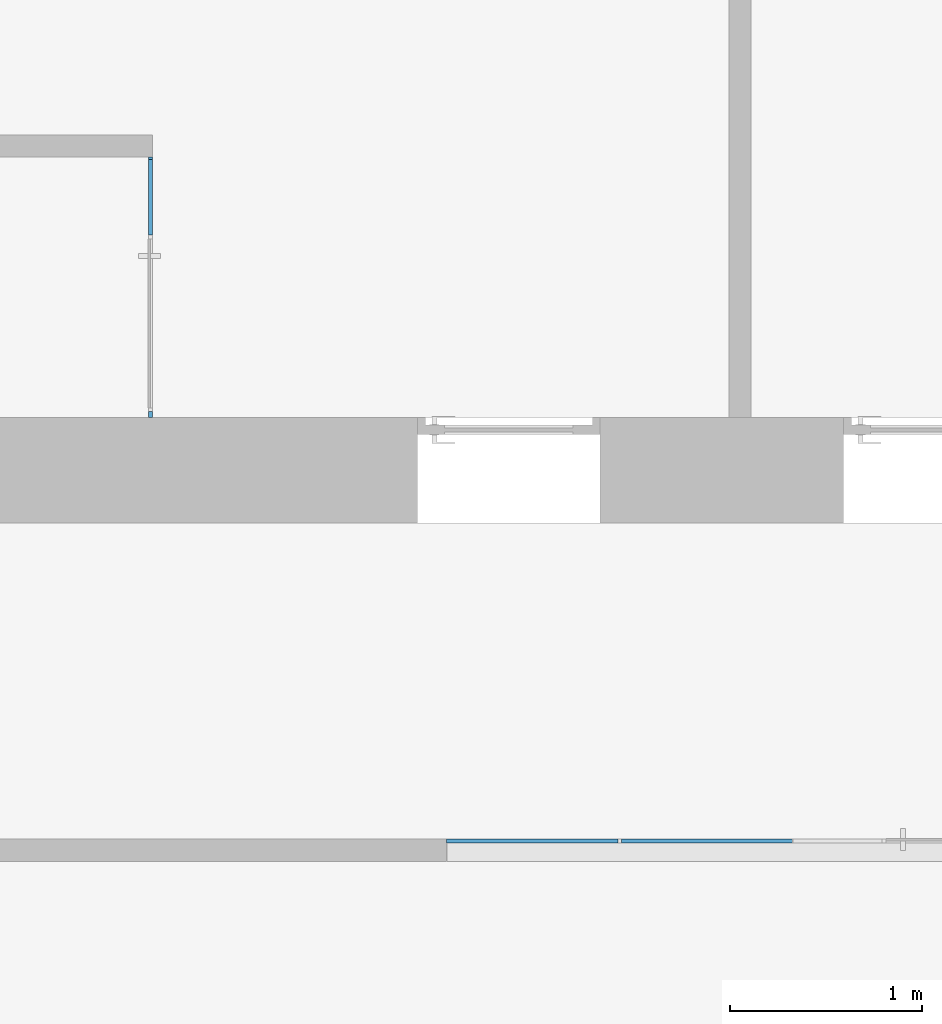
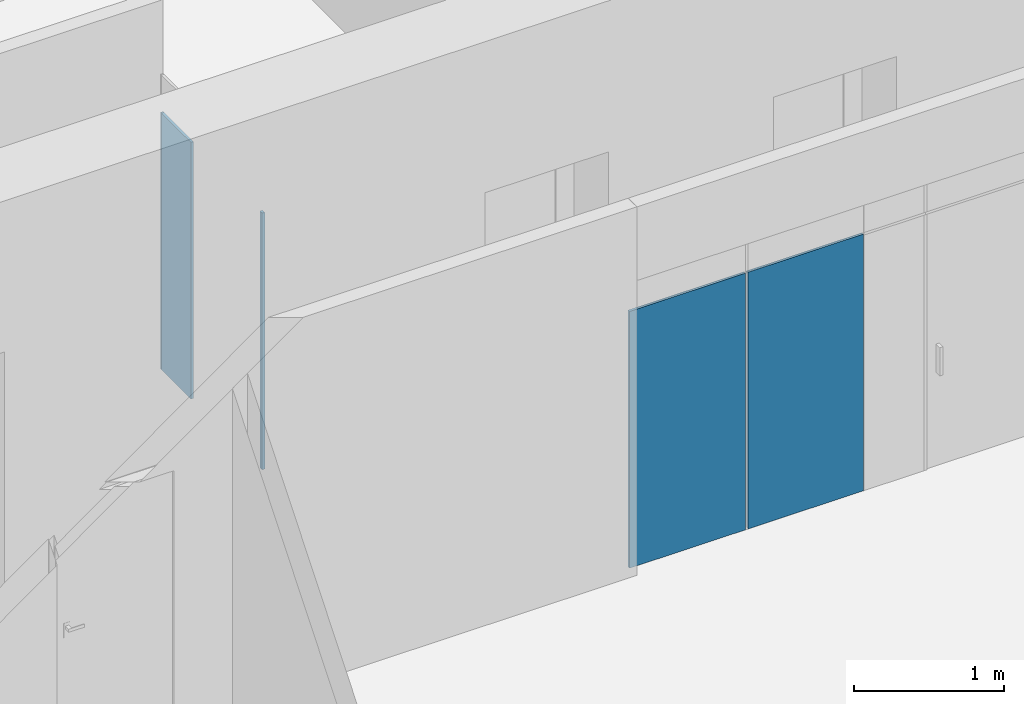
# One storey, part 25 of 73: 5 plates, 2 elements without a shape of their own.
"""IFC2X3 building model written with IfcOpenShell, lengths in millimetres."""

from ifc_helpers import new_model, entity, si_unit, converted_unit, derived_unit, direction, frame, origin, origin_2d_with_axis, place, context, subcontext, project, spatial, rectangle, extrude, source, transform, mapped, material, layer, layer_set, layer_usage, type_object, type_shapes, element, aggregate, save


model = new_model("IFC2X3")

# Units and contexts
model_context = context("Model", 3, precision=0.01, world=origin(), true_north=direction((6.12303176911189e-17, 1.0)))
body_context = subcontext(model_context, "Body", "Model", "MODEL_VIEW")
ifc_project = project(units=[si_unit("LENGTHUNIT", "METRE", prefix="MILLI"), si_unit("AREAUNIT", "SQUARE_METRE"), si_unit("VOLUMEUNIT", "CUBIC_METRE"), converted_unit("PLANEANGLEUNIT", "DEGREE", entity("IfcRatioMeasure", 0.0174532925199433), si_unit("PLANEANGLEUNIT", "RADIAN"), dimensions=[0, 0, 0, 0, 0, 0, 0]), si_unit("MASSUNIT", "GRAM", prefix="KILO"), derived_unit("MASSDENSITYUNIT", [(si_unit("MASSUNIT", "GRAM", prefix="KILO"), 1), (si_unit("LENGTHUNIT", "METRE"), -3)]), si_unit("TIMEUNIT", "SECOND"), si_unit("FREQUENCYUNIT", "HERTZ"), si_unit("THERMODYNAMICTEMPERATUREUNIT", "DEGREE_CELSIUS"), derived_unit("THERMALTRANSMITTANCEUNIT", [(si_unit("MASSUNIT", "GRAM", prefix="KILO"), 1), (si_unit("THERMODYNAMICTEMPERATUREUNIT", "KELVIN"), -1), (si_unit("TIMEUNIT", "SECOND"), -3)]), derived_unit("VOLUMETRICFLOWRATEUNIT", [(si_unit("LENGTHUNIT", "METRE"), 3), (si_unit("TIMEUNIT", "SECOND"), -1)]), si_unit("ELECTRICCURRENTUNIT", "AMPERE"), si_unit("ELECTRICVOLTAGEUNIT", "VOLT"), si_unit("POWERUNIT", "WATT"), si_unit("FORCEUNIT", "NEWTON", prefix="KILO"), si_unit("ILLUMINANCEUNIT", "LUX"), si_unit("LUMINOUSFLUXUNIT", "LUMEN"), si_unit("LUMINOUSINTENSITYUNIT", "CANDELA"), derived_unit("USERDEFINED", [(si_unit("MASSUNIT", "GRAM", prefix="KILO"), -1), (si_unit("LENGTHUNIT", "METRE"), -2), (si_unit("TIMEUNIT", "SECOND"), 3), (si_unit("LUMINOUSFLUXUNIT", "LUMEN"), 1)]), derived_unit("LINEARVELOCITYUNIT", [(si_unit("LENGTHUNIT", "METRE"), 1), (si_unit("TIMEUNIT", "SECOND"), -1)]), si_unit("PRESSUREUNIT", "PASCAL"), derived_unit("USERDEFINED", [(si_unit("LENGTHUNIT", "METRE"), -2), (si_unit("MASSUNIT", "GRAM", prefix="KILO"), 1), (si_unit("TIMEUNIT", "SECOND"), -2)])], contexts=[model_context])

# Site, building, storey
site_placement = place(None, frame((-151.875543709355, 2715.0, 0.0)))
site = spatial("IfcSite", under=ifc_project, at=site_placement, Name="Surface", CompositionType="ELEMENT")
building_placement = place(site_placement, origin())
building = spatial("IfcBuilding", under=site, at=building_placement, CompositionType="ELEMENT")
storey_placement = place(building_placement, frame((0.0, 0.0, 6730.43000000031)))
storey = spatial("IfcBuildingStorey", under=building, at=storey_placement, Name="3 korrus", CompositionType="ELEMENT", Elevation=6730.43000000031)

# Curtain wall, plates
curtain_wall_type_1 = type_object("IfcCurtainWallType", Name="Curtain Wall:Klaassein KLS-17", PredefinedType="NOTDEFINED")
curtain_wall_1_placement = place(storey_placement, frame((0.0, 0.0, -6730.43000000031)))
curtain_wall_1 = element("IfcCurtainWall", 1, at=curtain_wall_1_placement, inside=storey, type_object=curtain_wall_type_1, Name="Curtain Wall:Klaassein KLS-17", ObjectType="Curtain Wall:Klaassein KLS-17")
ifc_material = material(Name="<Unnamed>")
ifc_layer = layer(ifc_material, 20.0)
ifc_layer_set = layer_set([ifc_layer], Name="Curtain Wall:Klaassein KLS-01")
ifc_layer_usage_1 = layer_usage(ifc_layer_set, "AXIS3", "POSITIVE", 0.0)
plate_type_1 = type_object("IfcPlateType", Name="Glazed", PredefinedType="CURTAIN_PANEL", material=ifc_layer_set)
shared_shape_1 = source(origin(), body_context, "Body", "SweptSolid", [
    extrude(rectangle(XDim=20.0, YDim=891.999999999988, at=origin_2d_with_axis()), frame((0.0, 0.0, 0.0), z_axis=(0.0, 0.0, 1.0), x_axis=(0.0, 1.0, 0.0)), (0.0, 0.0, 1.0), 2090.0),
])
type_shapes(plate_type_1, [shared_shape_1])
plate_1_placement = place(curtain_wall_1_placement, frame((12559.5647264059, 4355.04493399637, 6730.43000000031)))
plate_1 = element("IfcPlate", 2, at=plate_1_placement, type_object=plate_type_1, material=ifc_layer_usage_1, Name="System Panel:Glazed", ObjectType="Glazed", context=body_context, shape_type="MappedRepresentation", body=[
    mapped(shared_shape_1, transform((0.0, 0.0, 0.0), scale=1.0)),
])
ifc_layer_usage_2 = layer_usage(ifc_layer_set, "AXIS3", "POSITIVE", 0.0)
plate_type_2 = type_object("IfcPlateType", Name="Glazed", PredefinedType="CURTAIN_PANEL", material=ifc_layer_set)
shared_shape_2 = source(origin(), body_context, "Body", "SweptSolid", [
    extrude(rectangle(XDim=20.0, YDim=888.000000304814, at=origin_2d_with_axis()), frame((0.0, 0.0, 0.0), z_axis=(0.0, 0.0, 1.0), x_axis=(0.0, 1.0, 0.0)), (0.0, 0.0, 1.0), 2090.0),
])
type_shapes(plate_type_2, [shared_shape_2])
plate_2_placement = place(curtain_wall_1_placement, frame((13469.5647265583, 4355.04493399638, 6730.43000000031)))
plate_2 = element("IfcPlate", 3, at=plate_2_placement, type_object=plate_type_2, material=ifc_layer_usage_2, Name="System Panel:Glazed", ObjectType="Glazed", context=body_context, shape_type="MappedRepresentation", body=[
    mapped(shared_shape_2, transform((0.0, 0.0, 0.0), scale=1.0)),
])
aggregate(curtain_wall_1, [plate_1, plate_2])

curtain_wall_type_2 = type_object("IfcCurtainWallType", Name="Curtain Wall:Klaassein KLS-10", PredefinedType="NOTDEFINED")
curtain_wall_2_placement = place(storey_placement, frame((0.0, 0.0, -6730.43000000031)))
curtain_wall_2 = element("IfcCurtainWall", 4, at=curtain_wall_2_placement, inside=storey, type_object=curtain_wall_type_2, Name="Curtain Wall:Klaassein KLS-10", ObjectType="Curtain Wall:Klaassein KLS-10")
ifc_layer_usage_3 = layer_usage(ifc_layer_set, "AXIS3", "POSITIVE", 0.0)
plate_type_3 = type_object("IfcPlateType", Name="Glazed", PredefinedType="CURTAIN_PANEL", material=ifc_layer_set)
shared_shape_3 = source(origin(), body_context, "Body", "SweptSolid", [
    extrude(rectangle(XDim=20.0, YDim=13.0094386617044, at=origin_2d_with_axis()), frame((0.0, 0.0, 0.0), z_axis=(0.0, 0.0, 1.0), x_axis=(0.0, 1.0, 0.0)), (0.0, 0.0, 1.0), 2090.0),
])
type_shapes(plate_type_3, [shared_shape_3])
plate_3_placement = place(curtain_wall_2_placement, frame((10572.8493480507, 7908.55673879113, 6730.43000000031), z_axis=(0.0, 0.0, 1.0), x_axis=(0.0, -1.0, 0.0)))
plate_3 = element("IfcPlate", 5, at=plate_3_placement, type_object=plate_type_3, material=ifc_layer_usage_3, Name="System Panel:Glazed", ObjectType="Glazed", context=body_context, shape_type="MappedRepresentation", body=[
    mapped(shared_shape_3, transform((0.0, 0.0, 0.0), scale=1.0)),
])
ifc_layer_usage_4 = layer_usage(ifc_layer_set, "AXIS3", "POSITIVE", 0.0)
plate_type_4 = type_object("IfcPlateType", Name="Glazed", PredefinedType="CURTAIN_PANEL", material=ifc_layer_set)
shared_shape_4 = source(origin(), body_context, "Body", "SweptSolid", [
    extrude(rectangle(XDim=20.0, YDim=392.05201946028, at=origin_2d_with_axis()), frame((0.0, 0.0, 0.0), z_axis=(0.0, 0.0, 1.0), x_axis=(0.0, 1.0, 0.0)), (0.0, 0.0, 1.0), 2090.0),
])
type_shapes(plate_type_4, [shared_shape_4])
plate_4_placement = place(curtain_wall_2_placement, frame((10572.8493480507, 7706.02600973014, 6730.43000000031), z_axis=(0.0, 0.0, 1.0), x_axis=(0.0, -1.0, 0.0)))
plate_4 = element("IfcPlate", 6, at=plate_4_placement, type_object=plate_type_4, material=ifc_layer_usage_4, Name="System Panel:Glazed", ObjectType="Glazed", context=body_context, shape_type="MappedRepresentation", body=[
    mapped(shared_shape_4, transform((0.0, 0.0, 0.0), scale=1.0)),
])
ifc_layer_usage_5 = layer_usage(ifc_layer_set, "AXIS3", "POSITIVE", 0.0)
plate_type_5 = type_object("IfcPlateType", Name="Glazed", PredefinedType="CURTAIN_PANEL", material=ifc_layer_set)
shared_shape_5 = source(origin(), body_context, "Body", "SweptSolid", [
    extrude(rectangle(XDim=20.0, YDim=29.9999999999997, at=origin_2d_with_axis()), frame((0.0, 0.0, 0.0), z_axis=(0.0, 0.0, 1.0), x_axis=(0.0, 1.0, 0.0)), (0.0, 0.0, 1.0), 2090.0),
])
type_shapes(plate_type_5, [shared_shape_5])
plate_5_placement = place(curtain_wall_2_placement, frame((10572.8493480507, 6575.0, 6730.43000000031), z_axis=(0.0, 0.0, 1.0), x_axis=(0.0, -1.0, 0.0)))
plate_5 = element("IfcPlate", 7, at=plate_5_placement, type_object=plate_type_5, material=ifc_layer_usage_5, Name="System Panel:Glazed", ObjectType="Glazed", context=body_context, shape_type="MappedRepresentation", body=[
    mapped(shared_shape_5, transform((0.0, 0.0, 0.0), scale=1.0)),
])
aggregate(curtain_wall_2, [plate_3, plate_4, plate_5])

save(model, "model.ifc")
